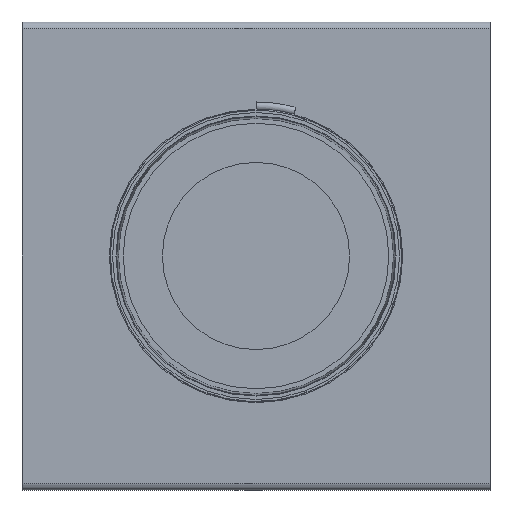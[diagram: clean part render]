
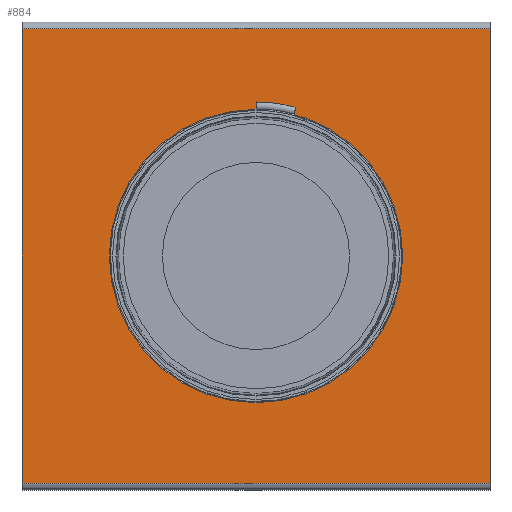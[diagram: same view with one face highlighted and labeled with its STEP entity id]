
A CAD part, front view. The second image highlights one B-rep face of the part: STEP entity #884.
In plain terms, the highlighted planar face has unit normal (0, -1, 0).
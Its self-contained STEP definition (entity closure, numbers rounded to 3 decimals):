
#50=FACE_BOUND('',#236,.T.);
#88=PLANE('',#1002);
#143=FACE_OUTER_BOUND('',#235,.T.);
#235=EDGE_LOOP('',(#748,#749,#750,#751));
#236=EDGE_LOOP('',(#752));
#300=LINE('',#1506,#344);
#304=LINE('',#1515,#348);
#305=LINE('',#1519,#349);
#306=LINE('',#1520,#350);
#344=VECTOR('',#1241,10.);
#348=VECTOR('',#1249,10.);
#349=VECTOR('',#1254,10.);
#350=VECTOR('',#1255,10.);
#404=CIRCLE('',#1003,210.);
#477=VERTEX_POINT('',#1503);
#478=VERTEX_POINT('',#1505);
#481=VERTEX_POINT('',#1514);
#482=VERTEX_POINT('',#1518);
#483=VERTEX_POINT('',#1521);
#572=EDGE_CURVE('',#478,#477,#300,.T.);
#577=EDGE_CURVE('',#478,#481,#304,.T.);
#579=EDGE_CURVE('',#482,#477,#305,.T.);
#580=EDGE_CURVE('',#482,#481,#306,.T.);
#581=EDGE_CURVE('',#483,#483,#404,.T.);
#748=ORIENTED_EDGE('',*,*,#577,.F.);
#749=ORIENTED_EDGE('',*,*,#572,.T.);
#750=ORIENTED_EDGE('',*,*,#579,.F.);
#751=ORIENTED_EDGE('',*,*,#580,.T.);
#752=ORIENTED_EDGE('',*,*,#581,.T.);
#884=ADVANCED_FACE('',(#143,#50),#88,.T.);
#1002=AXIS2_PLACEMENT_3D('',#1517,#1252,#1253);
#1003=AXIS2_PLACEMENT_3D('',#1522,#1256,#1257);
#1241=DIRECTION('',(0.,0.,1.));
#1249=DIRECTION('',(-1.,0.,0.));
#1252=DIRECTION('center_axis',(0.,-1.,0.));
#1253=DIRECTION('ref_axis',(0.,0.,-1.));
#1254=DIRECTION('',(1.,0.,0.));
#1255=DIRECTION('',(0.,0.,-1.));
#1256=DIRECTION('center_axis',(0.,1.,0.));
#1257=DIRECTION('ref_axis',(0.,0.,1.));
#1503=CARTESIAN_POINT('',(335.,-335.,325.));
#1505=CARTESIAN_POINT('',(335.,-335.,-325.));
#1506=CARTESIAN_POINT('',(335.,-335.,335.));
#1514=CARTESIAN_POINT('',(-335.,-335.,-325.));
#1515=CARTESIAN_POINT('',(167.5,-335.,-325.));
#1517=CARTESIAN_POINT('Origin',(0.,-335.,0.));
#1518=CARTESIAN_POINT('',(-335.,-335.,325.));
#1519=CARTESIAN_POINT('',(-167.5,-335.,325.));
#1520=CARTESIAN_POINT('',(-335.,-335.,-335.));
#1521=CARTESIAN_POINT('',(0.,-335.,210.));
#1522=CARTESIAN_POINT('Origin',(0.,-335.,0.));
